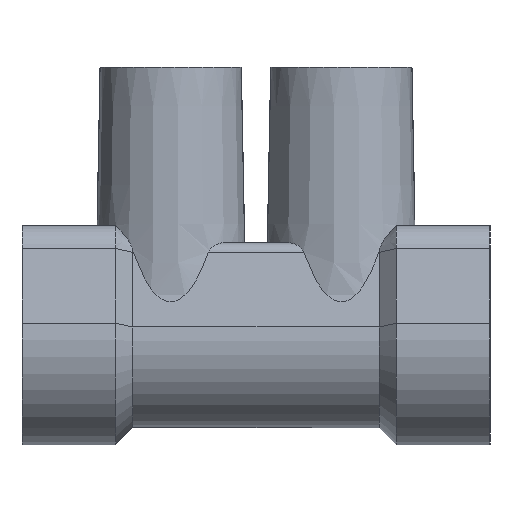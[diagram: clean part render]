
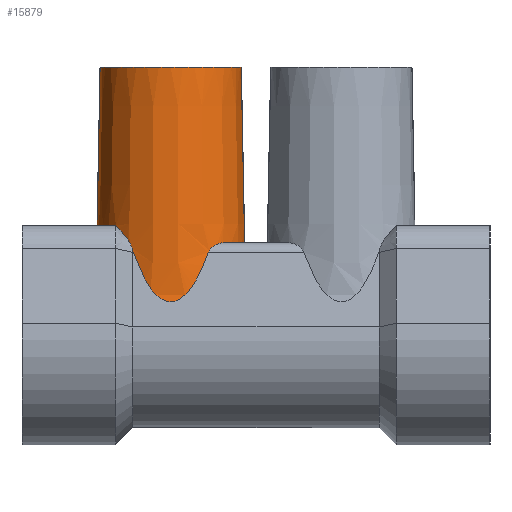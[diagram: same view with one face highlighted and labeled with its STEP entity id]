
A CAD part, left-side view. The second image highlights one B-rep face of the part: STEP entity #15879.
In plain terms, the highlighted conical face has half-angle 1.1 degrees and reference radius 2.9 mm.
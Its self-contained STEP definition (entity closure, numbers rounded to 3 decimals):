
#3650=ELLIPSE('',#17508,12.948,2.832);
#3651=ELLIPSE('',#17509,4.34,3.069);
#3652=ELLIPSE('',#17511,4.34,3.069);
#3653=ELLIPSE('',#17512,12.948,2.832);
#3654=ELLIPSE('',#17514,12.948,2.832);
#3835=B_SPLINE_CURVE_WITH_KNOTS('',3,(#27272,#27273,#27274,#27275),
 .UNSPECIFIED.,.F.,.F.,(4,4),(0.002,0.003),
 .UNSPECIFIED.);
#3836=B_SPLINE_CURVE_WITH_KNOTS('',3,(#27291,#27292,#27293,#27294,#27295),
 .UNSPECIFIED.,.F.,.F.,(4,1,4),(0.,0.001,
0.001),.UNSPECIFIED.);
#3837=B_SPLINE_CURVE_WITH_KNOTS('',3,(#27303,#27304,#27305,#27306,#27307),
 .UNSPECIFIED.,.F.,.F.,(4,1,4),(0.,0.001,
0.001),.UNSPECIFIED.);
#3838=B_SPLINE_CURVE_WITH_KNOTS('',3,(#27311,#27312,#27313,#27314,#27315),
 .UNSPECIFIED.,.F.,.F.,(4,1,4),(0.,0.,0.001),
 .UNSPECIFIED.);
#3839=B_SPLINE_CURVE_WITH_KNOTS('',3,(#27319,#27320,#27321,#27322,#27323),
 .UNSPECIFIED.,.F.,.F.,(4,1,4),(0.,0.,0.001),
 .UNSPECIFIED.);
#8100=ORIENTED_EDGE('',*,*,#10551,.T.);
#8101=ORIENTED_EDGE('',*,*,#10545,.F.);
#8102=ORIENTED_EDGE('',*,*,#10552,.F.);
#8103=ORIENTED_EDGE('',*,*,#10553,.T.);
#8104=ORIENTED_EDGE('',*,*,#10554,.F.);
#8105=ORIENTED_EDGE('',*,*,#10555,.F.);
#8106=ORIENTED_EDGE('',*,*,#10556,.F.);
#8107=ORIENTED_EDGE('',*,*,#10557,.F.);
#8108=ORIENTED_EDGE('',*,*,#10558,.F.);
#8109=ORIENTED_EDGE('',*,*,#10559,.T.);
#8110=ORIENTED_EDGE('',*,*,#10560,.T.);
#8111=ORIENTED_EDGE('',*,*,#10561,.T.);
#8112=ORIENTED_EDGE('',*,*,#10562,.F.);
#8113=ORIENTED_EDGE('',*,*,#10548,.T.);
#10545=EDGE_CURVE('',#12089,#12087,#3835,.T.);
#10548=EDGE_CURVE('',#12090,#12087,#12760,.T.);
#10551=EDGE_CURVE('',#12092,#12092,#12762,.T.);
#10552=EDGE_CURVE('',#12093,#12089,#3650,.F.);
#10553=EDGE_CURVE('',#12093,#12094,#3836,.T.);
#10554=EDGE_CURVE('',#12095,#12094,#3651,.F.);
#10555=EDGE_CURVE('',#12096,#12095,#12763,.T.);
#10556=EDGE_CURVE('',#12097,#12096,#3652,.F.);
#10557=EDGE_CURVE('',#12098,#12097,#3837,.T.);
#10558=EDGE_CURVE('',#12099,#12098,#3653,.F.);
#10559=EDGE_CURVE('',#12099,#12100,#3838,.T.);
#10560=EDGE_CURVE('',#12100,#12101,#12764,.F.);
#10561=EDGE_CURVE('',#12101,#12102,#3839,.T.);
#10562=EDGE_CURVE('',#12090,#12102,#3654,.F.);
#12087=VERTEX_POINT('',#27267);
#12089=VERTEX_POINT('',#27271);
#12090=VERTEX_POINT('',#27282);
#12092=VERTEX_POINT('',#27288);
#12093=VERTEX_POINT('',#27290);
#12094=VERTEX_POINT('',#27296);
#12095=VERTEX_POINT('',#27298);
#12096=VERTEX_POINT('',#27300);
#12097=VERTEX_POINT('',#27302);
#12098=VERTEX_POINT('',#27308);
#12099=VERTEX_POINT('',#27310);
#12100=VERTEX_POINT('',#27316);
#12101=VERTEX_POINT('',#27318);
#12102=VERTEX_POINT('',#27324);
#12760=CIRCLE('',#17504,3.063);
#12762=CIRCLE('',#17507,2.9);
#12763=CIRCLE('',#17510,3.025);
#12764=CIRCLE('',#17513,3.038);
#13794=EDGE_LOOP('',(#8100));
#13795=EDGE_LOOP('',(#8101,#8102,#8103,#8104,#8105,#8106,#8107,#8108,#8109,
#8110,#8111,#8112,#8113));
#14860=FACE_BOUND('',#13794,.T.);
#14861=FACE_BOUND('',#13795,.T.);
#15026=CONICAL_SURFACE('',#17506,2.9,0.019);
#15879=ADVANCED_FACE('',(#14860,#14861),#15026,.T.);
#17504=AXIS2_PLACEMENT_3D('',#27281,#21971,#21972);
#17506=AXIS2_PLACEMENT_3D('',#27286,#21976,#21977);
#17507=AXIS2_PLACEMENT_3D('',#27287,#21978,#21979);
#17508=AXIS2_PLACEMENT_3D('',#27289,#21980,#21981);
#17509=AXIS2_PLACEMENT_3D('',#27297,#21982,#21983);
#17510=AXIS2_PLACEMENT_3D('',#27299,#21984,#21985);
#17511=AXIS2_PLACEMENT_3D('',#27301,#21986,#21987);
#17512=AXIS2_PLACEMENT_3D('',#27309,#21988,#21989);
#17513=AXIS2_PLACEMENT_3D('',#27317,#21990,#21991);
#17514=AXIS2_PLACEMENT_3D('',#27325,#21992,#21993);
#21971=DIRECTION('',(0.,0.,1.));
#21972=DIRECTION('',(1.,0.,0.));
#21976=DIRECTION('',(0.,0.,-1.));
#21977=DIRECTION('',(1.,0.,0.));
#21978=DIRECTION('',(0.,0.,-1.));
#21979=DIRECTION('',(-1.,0.,0.));
#21980=DIRECTION('',(0.976,0.,0.22));
#21981=DIRECTION('',(0.22,0.,-0.976));
#21982=DIRECTION('',(0.,-0.707,0.707));
#21983=DIRECTION('',(0.,-0.707,-0.707));
#21984=DIRECTION('',(0.,0.,-1.));
#21985=DIRECTION('',(-1.,0.,0.));
#21986=DIRECTION('',(0.,-0.707,0.707));
#21987=DIRECTION('',(0.,-0.707,-0.707));
#21988=DIRECTION('',(-0.976,0.,0.22));
#21989=DIRECTION('',(-0.22,0.,-0.976));
#21990=DIRECTION('',(0.,0.,-1.));
#21991=DIRECTION('',(-1.,0.,0.));
#21992=DIRECTION('',(0.976,0.,0.22));
#21993=DIRECTION('',(0.22,0.,-0.976));
#27267=CARTESIAN_POINT('',(-107.03,12.35,2.5));
#27271=CARTESIAN_POINT('',(-107.017,12.35,1.83));
#27272=CARTESIAN_POINT('',(-107.017,12.35,1.83));
#27273=CARTESIAN_POINT('',(-107.021,12.35,2.053));
#27274=CARTESIAN_POINT('',(-107.026,12.35,2.277));
#27275=CARTESIAN_POINT('',(-107.03,12.35,2.5));
#27281=CARTESIAN_POINT('',(-110.,13.1,2.5));
#27282=CARTESIAN_POINT('',(-107.168,11.934,2.5));
#27286=CARTESIAN_POINT('',(-110.,13.1,11.));
#27287=CARTESIAN_POINT('',(-110.,13.1,11.));
#27288=CARTESIAN_POINT('',(-112.9,13.1,11.));
#27289=CARTESIAN_POINT('',(-109.757,13.1,14.011));
#27290=CARTESIAN_POINT('',(-107.38,14.651,3.442));
#27291=CARTESIAN_POINT('',(-107.38,14.651,3.442));
#27292=CARTESIAN_POINT('',(-107.405,14.686,3.648));
#27293=CARTESIAN_POINT('',(-107.535,14.887,3.999));
#27294=CARTESIAN_POINT('',(-107.739,15.123,4.273));
#27295=CARTESIAN_POINT('',(-107.86,15.241,4.391));
#27296=CARTESIAN_POINT('',(-107.86,15.241,4.391));
#27297=CARTESIAN_POINT('',(-110.,13.041,2.191));
#27298=CARTESIAN_POINT('',(-107.978,15.35,4.5));
#27299=CARTESIAN_POINT('',(-110.,13.1,4.5));
#27300=CARTESIAN_POINT('',(-112.022,15.35,4.5));
#27301=CARTESIAN_POINT('',(-110.,13.041,2.191));
#27302=CARTESIAN_POINT('',(-112.14,15.241,4.391));
#27303=CARTESIAN_POINT('',(-112.62,14.651,3.442));
#27304=CARTESIAN_POINT('',(-112.595,14.686,3.648));
#27305=CARTESIAN_POINT('',(-112.465,14.887,3.999));
#27306=CARTESIAN_POINT('',(-112.261,15.123,4.273));
#27307=CARTESIAN_POINT('',(-112.14,15.241,4.391));
#27308=CARTESIAN_POINT('',(-112.62,14.651,3.442));
#27309=CARTESIAN_POINT('',(-110.243,13.1,14.011));
#27310=CARTESIAN_POINT('',(-112.628,11.56,3.41));
#27311=CARTESIAN_POINT('',(-112.628,11.56,3.41));
#27312=CARTESIAN_POINT('',(-112.595,11.51,3.554));
#27313=CARTESIAN_POINT('',(-112.446,11.277,3.731));
#27314=CARTESIAN_POINT('',(-112.25,11.052,3.8));
#27315=CARTESIAN_POINT('',(-112.14,10.943,3.8));
#27316=CARTESIAN_POINT('',(-112.14,10.943,3.8));
#27317=CARTESIAN_POINT('',(-110.,13.1,3.8));
#27318=CARTESIAN_POINT('',(-107.86,10.943,3.8));
#27319=CARTESIAN_POINT('',(-107.86,10.943,3.8));
#27320=CARTESIAN_POINT('',(-107.75,11.052,3.8));
#27321=CARTESIAN_POINT('',(-107.554,11.276,3.732));
#27322=CARTESIAN_POINT('',(-107.405,11.51,3.554));
#27323=CARTESIAN_POINT('',(-107.372,11.56,3.41));
#27324=CARTESIAN_POINT('',(-107.372,11.56,3.41));
#27325=CARTESIAN_POINT('',(-109.757,13.1,14.011));
